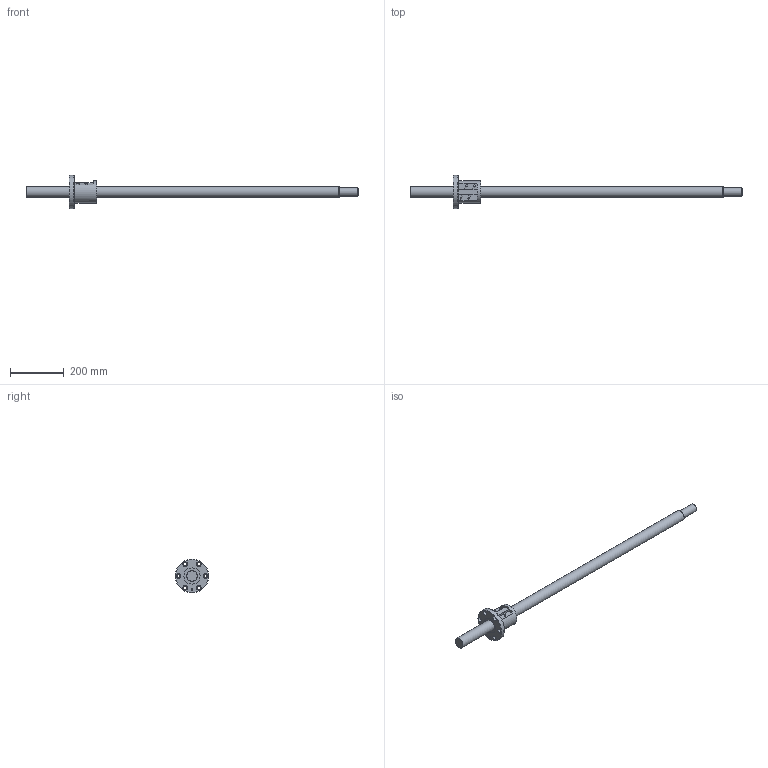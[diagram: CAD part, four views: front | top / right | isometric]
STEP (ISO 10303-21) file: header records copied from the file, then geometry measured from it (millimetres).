
FILE_DESCRIPTION(/* description */ ('STEP AP203'),/* implementation_level */ '2;1');
FILE_NAME(/* name */ 'BNF4010-5RRG1+1230LC5A(00)',/* time_stamp */ '2024-07-15T07:50:10+02:00',/* author */ ('License CC BY-ND 4.0'),/* organization */ ('CADENAS'),/* preprocessor_version */ 'ST-DEVELOPER v19.3',/* originating_system */ 'PARTsolutions',/* authorisation */ ' ');
FILE_SCHEMA (('CONFIG_CONTROL_DESIGN'));
Length unit declared in the file: millimetre
Products named in the file (3): BNF4010-5RRG1+1230LC5A(00); BNF4010-5RRG1+1230LC5A(00)_shaft; BNF 4010-5RR_nut
Assembly tree (2 placements, depth 2):
  BNF4010-5RRG1+1230LC5A(00)
    BNF4010-5RRG1+1230LC5A(00)_shaft
    BNF 4010-5RR_nut
Bounding box: 1230 x 124 x 124 mm (x, y, z)
Volume: 1968847 mm3; surface area: 226553.5 mm2
Topology: 2 solids, 2 shells, 68 faces, 155 edges, 101 vertices
Faces by surface type: cylinder 32, plane 24, cone 8, torus 4
Full cylindrical faces by diameter (mm): 4.5 x2, 4.917 x1, 5.465 x4, 11 x6, 17.5 x6, 30.3 x1, 40 x2, 60 x2, 82 x1, 124 x1
Entity records: 1763 total; most frequent: DIRECTION 312, CARTESIAN_POINT 297, ORIENTED_EDGE 202, AXIS2_PLACEMENT_3D 144, EDGE_LOOP 142, FACE_BOUND 142, EDGE_CURVE 101, VERTEX_POINT 87
